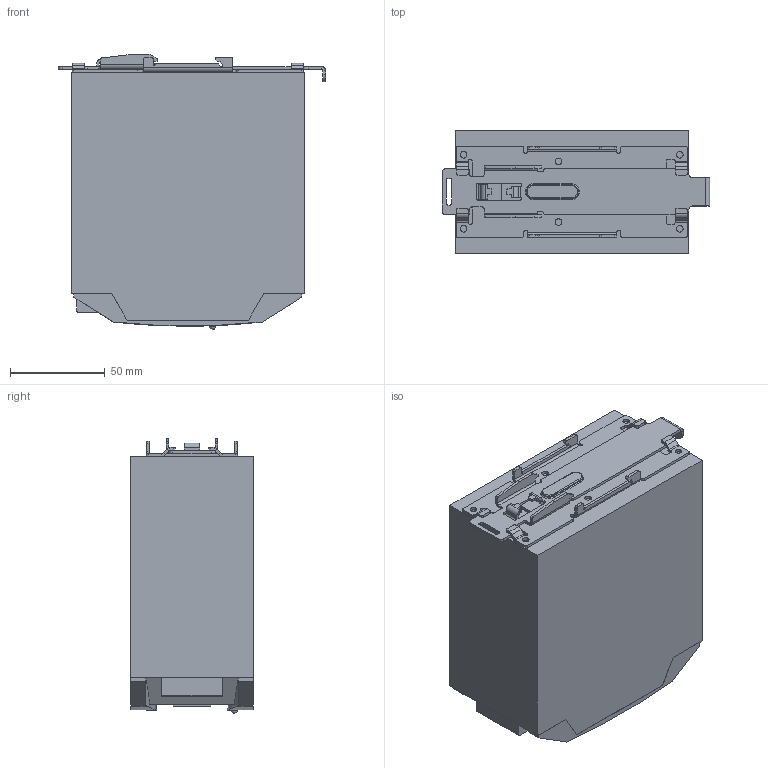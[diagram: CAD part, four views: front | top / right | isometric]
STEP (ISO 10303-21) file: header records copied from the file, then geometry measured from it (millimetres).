
FILE_DESCRIPTION(/* description */ (''),/* implementation_level */ '2;1');
FILE_NAME(/* name */ 'O:\Projekte_G\1529G0X\Grafiken\CAD\1529G03-0001.stp',/* time_stamp */ '2016-09-07T09:23:36+02:00',/* author */ ('aj'),/* organization */ (''),/* preprocessor_version */ 'ST-DEVELOPER v15.6',/* originating_system */ 'Autodesk Inventor 2015',/* authorisation */ '');
FILE_SCHEMA (('CONFIG_CONTROL_DESIGN'));
Length unit declared in the file: millimetre
Products named in the file (1): 1529G03-0001
Bounding box: 141 x 65 x 145.11 mm (x, y, z)
Volume: 1028029.9 mm3; surface area: 75367.3 mm2
Topology: 1 solids, 2 shells, 707 faces, 1810 edges, 1162 vertices
Faces by surface type: plane 437, cylinder 253, cone 8, torus 8, sphere 1
Full cylindrical faces by diameter (mm): 0.457 x1, 3.5 x7, 4 x8
Entity records: 23556 total; most frequent: CARTESIAN_POINT 5347, DIRECTION 3705, ORIENTED_EDGE 3570, EDGE_CURVE 1785, AXIS2_PLACEMENT_3D 1264, LINE 1177, VECTOR 1177, VERTEX_POINT 1154
